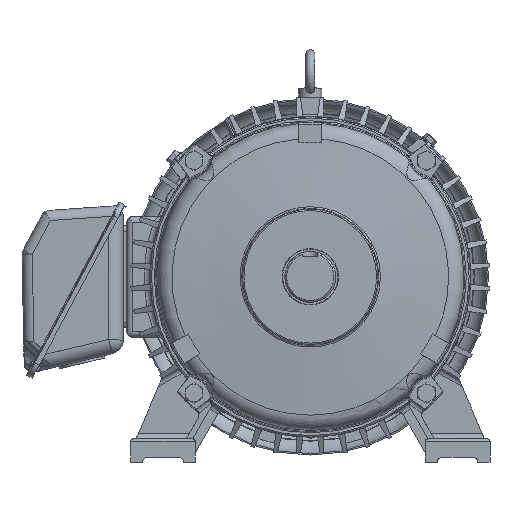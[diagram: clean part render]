
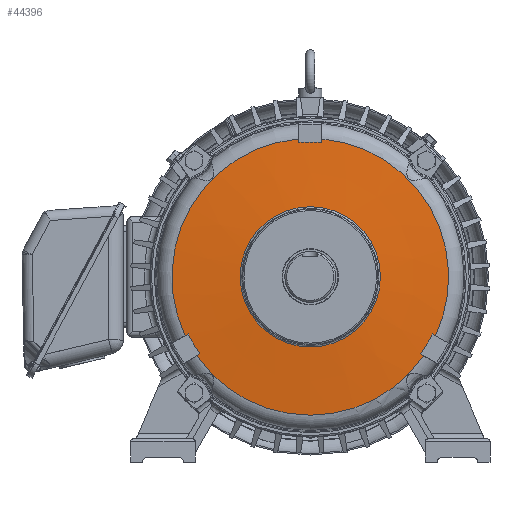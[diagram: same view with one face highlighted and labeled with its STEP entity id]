
A CAD part, front view. The second image highlights one B-rep face of the part: STEP entity #44396.
In plain terms, the highlighted conical face has half-angle 85.199 degrees and reference radius 74 mm.
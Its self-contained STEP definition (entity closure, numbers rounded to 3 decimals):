
#661=CONICAL_SURFACE('',#47404,74.,1.487);
#1522=B_SPLINE_CURVE_WITH_KNOTS('',3,(#71176,#71177,#71178,#71179),
 .UNSPECIFIED.,.F.,.F.,(4,4),(0.,1.),.PIECEWISE_BEZIER_KNOTS.);
#1524=B_SPLINE_CURVE_WITH_KNOTS('',3,(#71230,#71231,#71232,#71233),
 .UNSPECIFIED.,.F.,.F.,(4,4),(0.,1.),.PIECEWISE_BEZIER_KNOTS.);
#1543=B_SPLINE_CURVE_WITH_KNOTS('',3,(#71487,#71488,#71489,#71490),
 .UNSPECIFIED.,.F.,.F.,(4,4),(0.,1.),.PIECEWISE_BEZIER_KNOTS.);
#1545=B_SPLINE_CURVE_WITH_KNOTS('',3,(#71541,#71542,#71543,#71544),
 .UNSPECIFIED.,.F.,.F.,(4,4),(0.,1.),.PIECEWISE_BEZIER_KNOTS.);
#1596=B_SPLINE_CURVE_WITH_KNOTS('',3,(#72336,#72337,#72338,#72339),
 .UNSPECIFIED.,.F.,.F.,(4,4),(0.,1.),.PIECEWISE_BEZIER_KNOTS.);
#1598=B_SPLINE_CURVE_WITH_KNOTS('',3,(#72390,#72391,#72392,#72393),
 .UNSPECIFIED.,.F.,.F.,(4,4),(0.,1.),.PIECEWISE_BEZIER_KNOTS.);
#3716=CIRCLE('',#47221,145.43);
#3723=CIRCLE('',#47234,145.43);
#3781=CIRCLE('',#47328,145.43);
#3827=CIRCLE('',#47405,75.733);
#3828=CIRCLE('',#47406,149.371);
#3829=CIRCLE('',#47407,149.371);
#3830=CIRCLE('',#47408,149.371);
#8700=ORIENTED_EDGE('',*,*,#18358,.T.);
#8701=ORIENTED_EDGE('',*,*,#18234,.F.);
#8702=ORIENTED_EDGE('',*,*,#18359,.T.);
#8703=ORIENTED_EDGE('',*,*,#18078,.F.);
#8704=ORIENTED_EDGE('',*,*,#18076,.F.);
#8705=ORIENTED_EDGE('',*,*,#18073,.F.);
#8706=ORIENTED_EDGE('',*,*,#18360,.T.);
#8707=ORIENTED_EDGE('',*,*,#18048,.F.);
#8708=ORIENTED_EDGE('',*,*,#18046,.F.);
#8709=ORIENTED_EDGE('',*,*,#18043,.F.);
#8710=ORIENTED_EDGE('',*,*,#18361,.T.);
#8711=ORIENTED_EDGE('',*,*,#18239,.F.);
#8712=ORIENTED_EDGE('',*,*,#18237,.F.);
#18043=EDGE_CURVE('',#23172,#23171,#1522,.T.);
#18046=EDGE_CURVE('',#23171,#23173,#3716,.F.);
#18048=EDGE_CURVE('',#23173,#23175,#1524,.T.);
#18073=EDGE_CURVE('',#23196,#23195,#1543,.T.);
#18076=EDGE_CURVE('',#23195,#23197,#3723,.F.);
#18078=EDGE_CURVE('',#23197,#23199,#1545,.T.);
#18234=EDGE_CURVE('',#23331,#23328,#1596,.T.);
#18237=EDGE_CURVE('',#23328,#23332,#3781,.F.);
#18239=EDGE_CURVE('',#23332,#23334,#1598,.T.);
#18358=EDGE_CURVE('',#23419,#23419,#3827,.T.);
#18359=EDGE_CURVE('',#23331,#23199,#3828,.T.);
#18360=EDGE_CURVE('',#23196,#23175,#3829,.T.);
#18361=EDGE_CURVE('',#23172,#23334,#3830,.T.);
#23171=VERTEX_POINT('',#71071);
#23172=VERTEX_POINT('',#71175);
#23173=VERTEX_POINT('',#71182);
#23175=VERTEX_POINT('',#71234);
#23195=VERTEX_POINT('',#71382);
#23196=VERTEX_POINT('',#71486);
#23197=VERTEX_POINT('',#71493);
#23199=VERTEX_POINT('',#71545);
#23328=VERTEX_POINT('',#72225);
#23331=VERTEX_POINT('',#72335);
#23332=VERTEX_POINT('',#72342);
#23334=VERTEX_POINT('',#72394);
#23419=VERTEX_POINT('',#73026);
#30431=EDGE_LOOP('',(#8700));
#30432=EDGE_LOOP('',(#8701,#8702,#8703,#8704,#8705,#8706,#8707,#8708,#8709,
#8710,#8711,#8712));
#33128=FACE_BOUND('',#30431,.T.);
#33129=FACE_BOUND('',#30432,.T.);
#44396=ADVANCED_FACE('',(#33128,#33129),#661,.T.);
#47221=AXIS2_PLACEMENT_3D('',#71185,#53160,#53161);
#47234=AXIS2_PLACEMENT_3D('',#71496,#53188,#53189);
#47328=AXIS2_PLACEMENT_3D('',#72345,#53425,#53426);
#47404=AXIS2_PLACEMENT_3D('',#73024,#53589,#53590);
#47405=AXIS2_PLACEMENT_3D('',#73025,#53591,#53592);
#47406=AXIS2_PLACEMENT_3D('',#73027,#53593,#53594);
#47407=AXIS2_PLACEMENT_3D('',#73028,#53595,#53596);
#47408=AXIS2_PLACEMENT_3D('',#73029,#53597,#53598);
#53160=DIRECTION('',(0.,-1.,0.));
#53161=DIRECTION('',(1.,0.,0.));
#53188=DIRECTION('',(0.,-1.,0.));
#53189=DIRECTION('',(1.,0.,0.));
#53425=DIRECTION('',(0.,-1.,0.));
#53426=DIRECTION('',(0.,0.,-1.));
#53589=DIRECTION('',(0.,1.,0.));
#53590=DIRECTION('',(0.,0.,1.));
#53591=DIRECTION('',(0.,1.,0.));
#53592=DIRECTION('',(0.,0.,1.));
#53593=DIRECTION('',(0.,-1.,0.));
#53594=DIRECTION('',(0.,0.,-1.));
#53595=DIRECTION('',(0.,-1.,0.));
#53596=DIRECTION('',(0.,0.,-1.));
#53597=DIRECTION('',(0.,-1.,0.));
#53598=DIRECTION('',(0.,0.,-1.));
#71071=CARTESIAN_POINT('',(-119.23,24.,-83.271));
#71175=CARTESIAN_POINT('',(-122.655,24.331,-85.249));
#71176=CARTESIAN_POINT('',(-122.655,24.331,-85.249));
#71177=CARTESIAN_POINT('',(-121.514,24.221,-84.59));
#71178=CARTESIAN_POINT('',(-120.372,24.11,-83.931));
#71179=CARTESIAN_POINT('',(-119.23,24.,-83.271));
#71182=CARTESIAN_POINT('',(-131.73,24.,-61.621));
#71185=CARTESIAN_POINT('',(0.,24.,0.));
#71230=CARTESIAN_POINT('',(-131.73,24.,-61.621));
#71231=CARTESIAN_POINT('',(-132.872,24.11,-62.28));
#71232=CARTESIAN_POINT('',(-134.014,24.221,-62.939));
#71233=CARTESIAN_POINT('',(-135.155,24.331,-63.598));
#71234=CARTESIAN_POINT('',(-135.155,24.331,-63.598));
#71382=CARTESIAN_POINT('',(-12.5,24.,144.892));
#71486=CARTESIAN_POINT('',(-12.5,24.331,148.847));
#71487=CARTESIAN_POINT('',(-12.5,24.331,148.847));
#71488=CARTESIAN_POINT('',(-12.5,24.221,147.529));
#71489=CARTESIAN_POINT('',(-12.5,24.11,146.21));
#71490=CARTESIAN_POINT('',(-12.5,24.,144.892));
#71493=CARTESIAN_POINT('',(12.5,24.,144.892));
#71496=CARTESIAN_POINT('',(0.,24.,0.));
#71541=CARTESIAN_POINT('',(12.5,24.,144.892));
#71542=CARTESIAN_POINT('',(12.5,24.11,146.21));
#71543=CARTESIAN_POINT('',(12.5,24.221,147.529));
#71544=CARTESIAN_POINT('',(12.5,24.331,148.847));
#71545=CARTESIAN_POINT('',(12.5,24.331,148.847));
#72225=CARTESIAN_POINT('',(131.73,24.,-61.621));
#72335=CARTESIAN_POINT('',(135.155,24.331,-63.598));
#72336=CARTESIAN_POINT('',(135.155,24.331,-63.598));
#72337=CARTESIAN_POINT('',(134.014,24.221,-62.939));
#72338=CARTESIAN_POINT('',(132.872,24.11,-62.28));
#72339=CARTESIAN_POINT('',(131.73,24.,-61.621));
#72342=CARTESIAN_POINT('',(119.23,24.,-83.271));
#72345=CARTESIAN_POINT('',(0.,24.,0.));
#72390=CARTESIAN_POINT('',(119.23,24.,-83.271));
#72391=CARTESIAN_POINT('',(120.372,24.11,-83.931));
#72392=CARTESIAN_POINT('',(121.514,24.221,-84.59));
#72393=CARTESIAN_POINT('',(122.655,24.331,-85.249));
#72394=CARTESIAN_POINT('',(122.655,24.331,-85.249));
#73024=CARTESIAN_POINT('',(0.,18.,0.));
#73025=CARTESIAN_POINT('',(0.,18.146,0.));
#73026=CARTESIAN_POINT('',(0.,18.146,75.733));
#73027=CARTESIAN_POINT('',(0.,24.331,0.));
#73028=CARTESIAN_POINT('',(0.,24.331,0.));
#73029=CARTESIAN_POINT('',(0.,24.331,0.));
